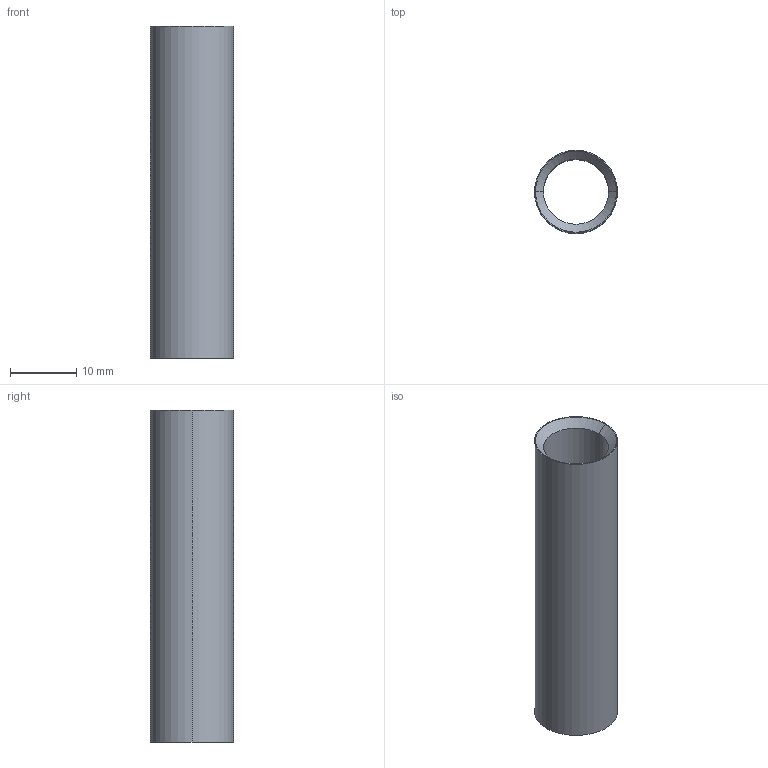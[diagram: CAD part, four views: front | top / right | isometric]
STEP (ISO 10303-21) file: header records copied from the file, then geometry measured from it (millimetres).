
FILE_DESCRIPTION (( 'STEP AP214' ), '1' );
FILE_NAME ('OptiKit C-GTY-50.STEP', '2020-05-19T08:35:27', ( '' ), ( '' ), 'SwSTEP 2.0', 'SolidWorks 2018', '' );
FILE_SCHEMA (( 'AUTOMOTIVE_DESIGN' ));
Length unit declared in the file: millimetre
Products named in the file (1): OptiKit  C-GTY-50
Bounding box: 12.5 x 12.5 x 50 mm (x, y, z)
Volume: 2316.5 mm3; surface area: 3557.9 mm2
Topology: 1 solids, 1 shells, 10 faces, 20 edges, 12 vertices
Faces by surface type: cone 4, cylinder 4, plane 2
Entity records: 302 total; most frequent: DIRECTION 54, CARTESIAN_POINT 43, ORIENTED_EDGE 40, AXIS2_PLACEMENT_3D 23, EDGE_CURVE 20, CIRCLE 12, VERTEX_POINT 12, EDGE_LOOP 12
